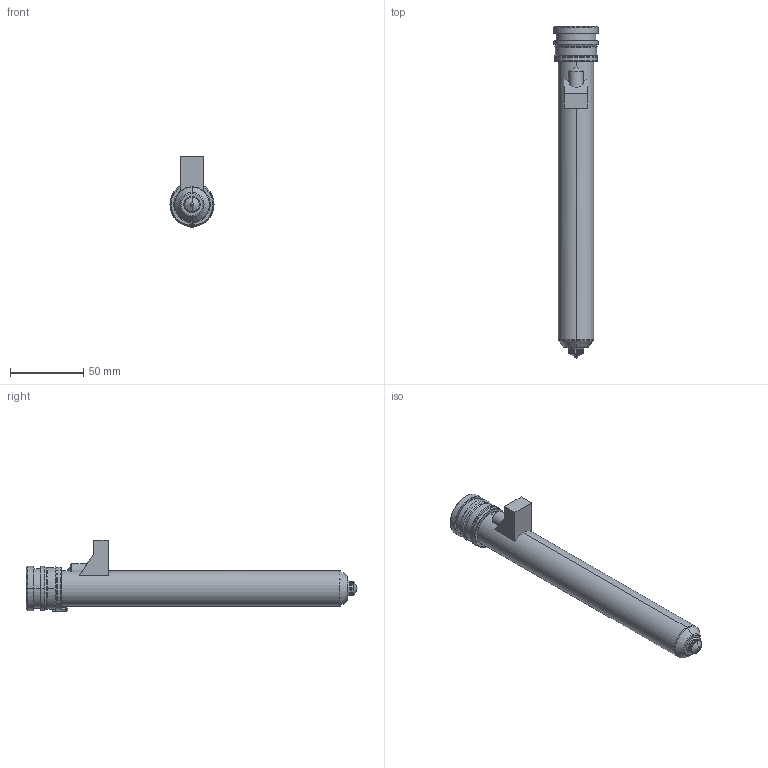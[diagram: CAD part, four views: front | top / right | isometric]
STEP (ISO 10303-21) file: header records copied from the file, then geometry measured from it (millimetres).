
FILE_DESCRIPTION((''),'2;1');
FILE_NAME('MPN-10-29-TS10-206-M','2026-02-05T12:50:27',('UPTIO'),('Thermoplay S.p.A.'),'CREO PARAMETRIC BY PTC INC, 2023494','CREO PARAMETRIC BY PTC INC, 2023494','');
FILE_SCHEMA(('CONFIG_CONTROL_DESIGN','SHAPE_APPEARANCE_LAYERS_GROUPS'));
Length unit declared in the file: millimetre
Products named in the file (1): MPN-10-29-TS10-206-M
Bounding box: 30 x 226 x 49 mm (x, y, z)
Volume: 70067.9 mm3; surface area: 71901.5 mm2
Topology: 3 solids, 5 shells, 542 faces, 1383 edges, 843 vertices
Faces by surface type: cylinder 177, plane 148, bspline 72, torus 67, cone 64, sphere 10, extrusion 4
Entity records: 29092 total; most frequent: CARTESIAN_POINT 13316, ORIENTED_EDGE 2748, DIRECTION 2578, EDGE_CURVE 1374, AXIS2_PLACEMENT_3D 1023, VERTEX_POINT 843, EDGE_LOOP 571, CIRCLE 556
